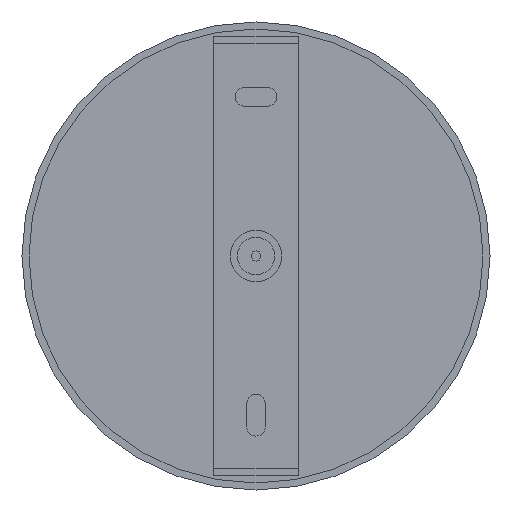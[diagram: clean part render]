
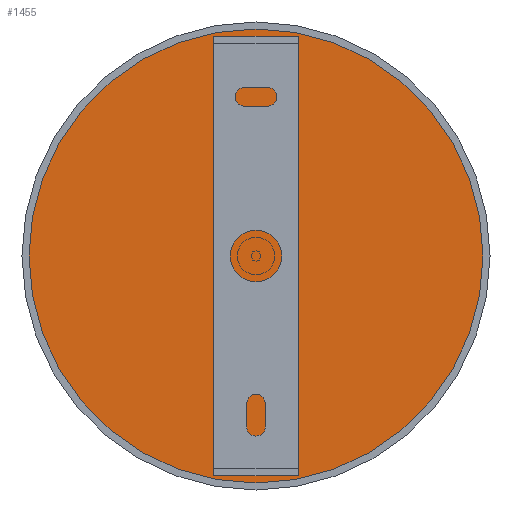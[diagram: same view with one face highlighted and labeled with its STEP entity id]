
A CAD part, front view. The second image highlights one B-rep face of the part: STEP entity #1455.
In plain terms, the highlighted planar face has unit normal (0, -1, 0).
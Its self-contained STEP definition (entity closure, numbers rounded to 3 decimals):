
#17 = CARTESIAN_POINT ( 'NONE',  ( 0., 28.5, 0. ) ) ;
#98 = CARTESIAN_POINT ( 'NONE',  ( 0., 28.5, 0. ) ) ;
#172 = CIRCLE ( 'NONE', #1175, 48.5 ) ;
#214 = ORIENTED_EDGE ( 'NONE', *, *, #362, .F. ) ;
#336 = AXIS2_PLACEMENT_3D ( 'NONE', #98, #1616, #375 ) ;
#359 = AXIS2_PLACEMENT_3D ( 'NONE', #773, #790, #1213 ) ;
#362 = EDGE_CURVE ( 'NONE', #1441, #935, #1143, .T. ) ;
#375 = DIRECTION ( 'NONE',  ( 0., 0., 1. ) ) ;
#377 = CARTESIAN_POINT ( 'NONE',  ( 0., 28.5, 48.5 ) ) ;
#384 = ORIENTED_EDGE ( 'NONE', *, *, #1603, .F. ) ;
#414 = DIRECTION ( 'NONE',  ( 0., 0., 1. ) ) ;
#482 = FACE_OUTER_BOUND ( 'NONE', #1577, .T. ) ;
#773 = CARTESIAN_POINT ( 'NONE',  ( 0., 28.5, 0. ) ) ;
#790 = DIRECTION ( 'NONE',  ( 0., 1., 0. ) ) ;
#935 = VERTEX_POINT ( 'NONE', #377 ) ;
#988 = DIRECTION ( 'NONE',  ( 0., 1., 0. ) ) ;
#1035 = PLANE ( 'NONE',  #336 ) ;
#1143 = CIRCLE ( 'NONE', #359, 48.5 ) ;
#1172 = CARTESIAN_POINT ( 'NONE',  ( 0., 28.5, -48.5 ) ) ;
#1175 = AXIS2_PLACEMENT_3D ( 'NONE', #17, #988, #414 ) ;
#1213 = DIRECTION ( 'NONE',  ( 0., 0., 1. ) ) ;
#1441 = VERTEX_POINT ( 'NONE', #1172 ) ;
#1455 = ADVANCED_FACE ( 'NONE', ( #482 ), #1035, .F. ) ;
#1577 = EDGE_LOOP ( 'NONE', ( #214, #384 ) ) ;
#1603 = EDGE_CURVE ( 'NONE', #935, #1441, #172, .T. ) ;
#1616 = DIRECTION ( 'NONE',  ( 0., 1., 0. ) ) ;
